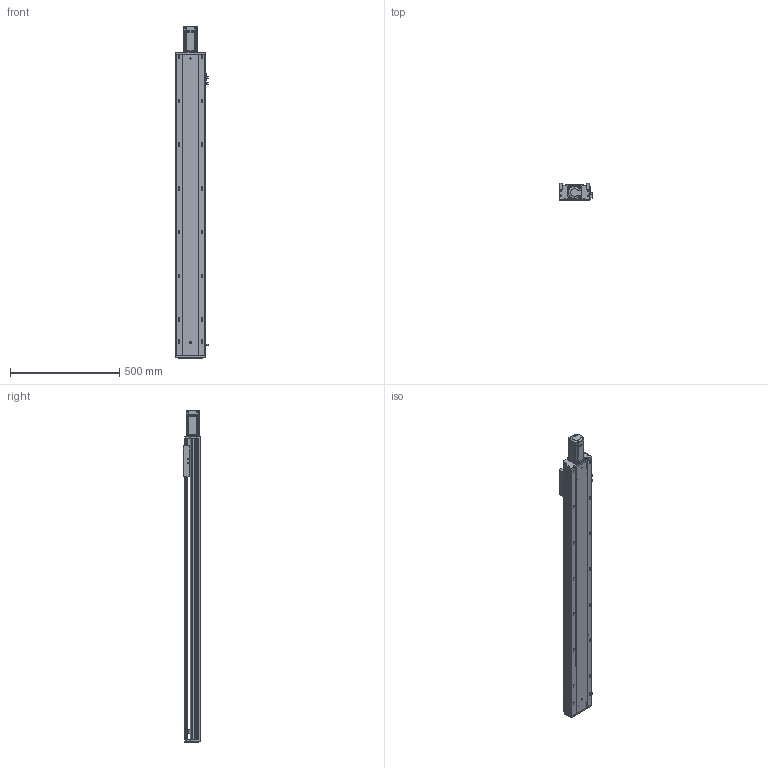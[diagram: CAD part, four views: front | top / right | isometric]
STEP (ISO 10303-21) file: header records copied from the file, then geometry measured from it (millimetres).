
FILE_DESCRIPTION (( 'STEP AP203' ), '1' );
FILE_NAME ('RY140Q-L2010-1000-MK.SLDASM_1150.step', '2021-05-27T07:34:34', ( '盈信电脑' ), ( '东莞市道滘镇水果街19号' ), 'SwSTEP 2.0', 'SolidWorks 2016', '' );
FILE_SCHEMA (( 'CONFIG_CONTROL_DESIGN' ));
Length unit declared in the file: millimetre
Products named in the file (13): RY140Q-1000-MK倰第奻裔啣_1150; RY140Q臏賑輸(20佪裝-J; 滅袉蝶18-10; RY120外置感应片(140共用）; 15; RY140Q-1000-MK倰第菁釱_1150; 覜茼ん672; RY140Q萇儂傷盓傅釱FK12(80.5酗M5); RY140Q-L2010-1000-MK.SLDASM_1150; RY140ヶ裔啣; RY140綴裔啣; 侂狟400W侜督萇儂; 滅袉蝶18-15
Assembly tree (15 placements, depth 3):
  RY140Q-L2010-1000-MK.SLDASM_1150
    RY140Q-1000-MK倰第菁釱_1150
    RY140Q臏賑輸(20佪裝-J
    RY140Q-1000-MK倰第奻裔啣_1150
    RY140ヶ裔啣
    侂狟400W侜督萇儂
      15
    RY140綴裔啣
    覜茼ん672  x3
    RY120外置感应片(140共用）
    RY140Q萇儂傷盓傅釱FK12(80.5酗M5)
    滅袉蝶18-10
    滅袉蝶18-15  x2
Bounding box: 148.7 x 78 x 1519.5 mm (x, y, z)
Volume: 4193115.7 mm3; surface area: 1551419.2 mm2
Topology: 14 solids, 14 shells, 2168 faces, 5999 edges, 3821 vertices
Faces by surface type: plane 1082, cylinder 778, cone 223, bspline 85
Entity records: 71431 total; most frequent: CARTESIAN_POINT 17088, ORIENTED_EDGE 11234, DIRECTION 10721, EDGE_CURVE 5617, VERTEX_POINT 3681, AXIS2_PLACEMENT_3D 3575, VECTOR 3571, LINE 3571
